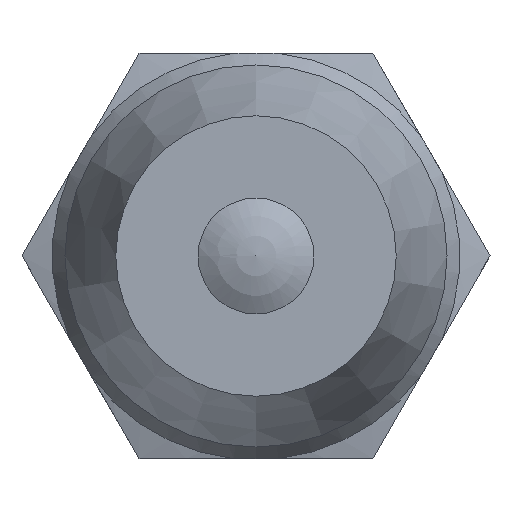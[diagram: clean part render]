
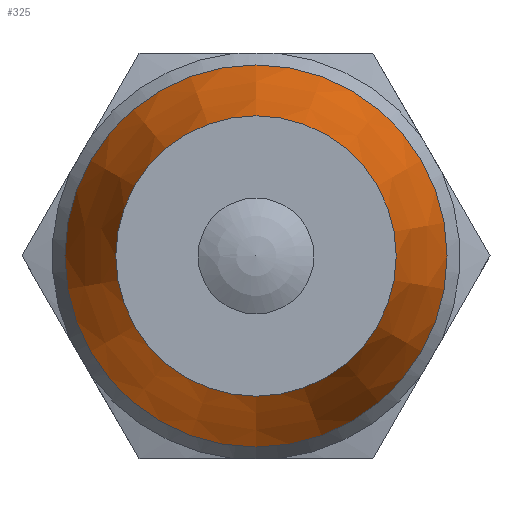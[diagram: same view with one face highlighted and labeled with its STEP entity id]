
A CAD part, left-side view. The second image highlights one B-rep face of the part: STEP entity #325.
In plain terms, the highlighted conical face has half-angle 18 degrees and reference radius 2.421 mm.
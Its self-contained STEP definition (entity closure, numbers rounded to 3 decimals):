
#50=CONICAL_SURFACE('',#369,2.421,0.314);
#111=ORIENTED_EDGE('',*,*,#192,.F.);
#112=ORIENTED_EDGE('',*,*,#191,.T.);
#191=EDGE_CURVE('',#229,#229,#249,.T.);
#192=EDGE_CURVE('',#230,#230,#250,.T.);
#229=VERTEX_POINT('',#578);
#230=VERTEX_POINT('',#581);
#249=CIRCLE('',#368,2.421);
#250=CIRCLE('',#370,3.3);
#266=EDGE_LOOP('',(#111));
#267=EDGE_LOOP('',(#112));
#296=FACE_BOUND('',#266,.T.);
#297=FACE_BOUND('',#267,.T.);
#325=ADVANCED_FACE('',(#296,#297),#50,.T.);
#368=AXIS2_PLACEMENT_3D('',#577,#423,#424);
#369=AXIS2_PLACEMENT_3D('',#579,#425,#426);
#370=AXIS2_PLACEMENT_3D('',#580,#427,#428);
#423=DIRECTION('',(1.,0.,0.));
#424=DIRECTION('',(0.,0.,-1.));
#425=DIRECTION('',(1.,0.,0.));
#426=DIRECTION('',(0.,0.,-1.));
#427=DIRECTION('',(1.,0.,0.));
#428=DIRECTION('',(0.,0.,-1.));
#577=CARTESIAN_POINT('',(-8.111,0.,0.));
#578=CARTESIAN_POINT('',(-8.111,0.,-2.421));
#579=CARTESIAN_POINT('',(-8.111,0.,0.));
#580=CARTESIAN_POINT('',(-5.407,0.,0.));
#581=CARTESIAN_POINT('',(-5.407,0.,-3.3));
